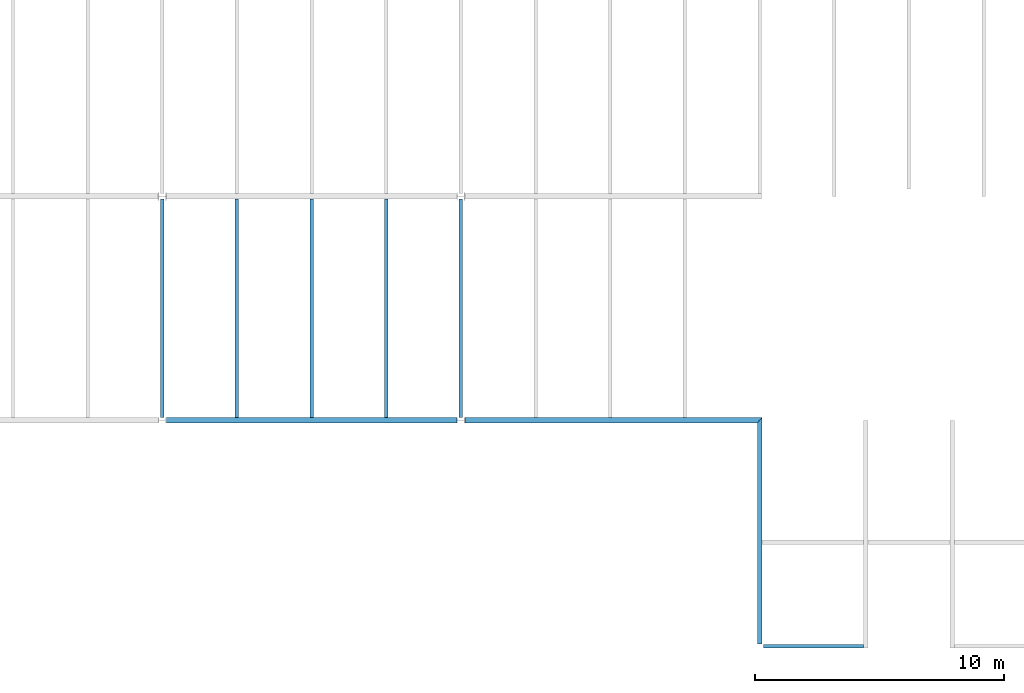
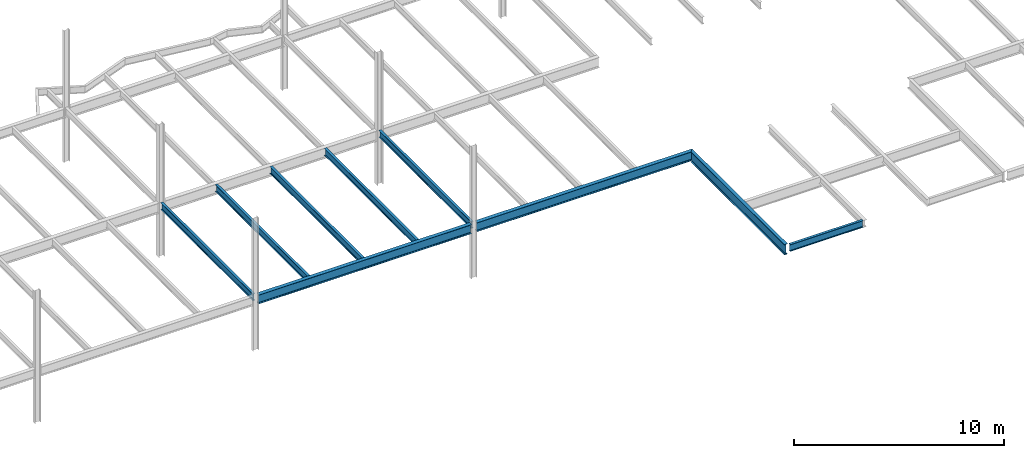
# One storey, part 8 of 23: 9 beams.
"""IFC2X3 building model written with IfcOpenShell, lengths in millimetres."""

from ifc_helpers import new_model, si_unit, origin, place, context, project, spatial, faceted_brep, material, element, save


model = new_model("IFC2X3")

# Units and contexts
context_of_model = context(None, 3, precision=1e-05, world=origin())
ifc_project = project(units=[si_unit("LENGTHUNIT", "METRE", prefix="MILLI")], contexts=[context_of_model])

# Building, storey
building = spatial("IfcBuilding", under=ifc_project, Name="Building", CompositionType="ELEMENT")
storey = spatial("IfcBuildingStorey", under=building, Name="FL5-FRM", CompositionType="ELEMENT")

# Beams
ifc_material_1 = material(Name="A992")
beam_1_placement = place(None, origin())
element("IfcBeam", 1, at=beam_1_placement, inside=storey, material=ifc_material_1, Name="Column415", context=context_of_model, shape_type="Brep", body=[
    faceted_brep([(-23847.0, 17895.5, 17345.0), (-23847.0, 18104.5, 17345.0), (-12153.0, 18104.5, 17345.0), (-12153.0, 17895.5, 17345.0), (-23847.0, 18104.5, 17358.3), (-12153.0, 18104.5, 17358.3), (-23847.0, 18017.4, 17358.3), (-12153.0, 18017.4, 17358.3), (-23847.0, 18014.2, 17358.7), (-12153.0, 18014.2, 17358.7), (-23847.0, 18011.1, 17360.0), (-12153.0, 18011.1, 17360.0), (-23847.0, 18008.5, 17362.0), (-12153.0, 18008.5, 17362.0), (-23847.0, 18006.5, 17364.7), (-12153.0, 18006.5, 17364.7), (-23847.0, 18005.2, 17367.7), (-12153.0, 18005.2, 17367.7), (-23847.0, 18004.8, 17371.0), (-12153.0, 18004.8, 17371.0), (-23847.0, 18004.8, 17847.0), (-12153.0, 18004.8, 17847.0), (-23847.0, 18005.2, 17850.3), (-12153.0, 18005.2, 17850.3), (-23847.0, 18006.5, 17853.3), (-12153.0, 18006.5, 17853.3), (-23847.0, 18008.5, 17856.0), (-12153.0, 18008.5, 17856.0), (-23847.0, 18011.1, 17858.0), (-12153.0, 18011.1, 17858.0), (-23847.0, 18014.2, 17859.3), (-12153.0, 18014.2, 17859.3), (-23847.0, 18017.4, 17859.7), (-12153.0, 18017.4, 17859.7), (-23847.0, 18104.5, 17859.7), (-12153.0, 18104.5, 17859.7), (-23847.0, 18104.5, 17873.0), (-12153.0, 18104.5, 17873.0), (-23847.0, 17895.5, 17873.0), (-12153.0, 17895.5, 17873.0), (-23847.0, 17895.5, 17859.7), (-12153.0, 17895.5, 17859.7), (-23847.0, 17982.6, 17859.7), (-12153.0, 17982.6, 17859.7), (-23847.0, 17985.8, 17859.3), (-12153.0, 17985.8, 17859.3), (-23847.0, 17988.9, 17858.0), (-12153.0, 17988.9, 17858.0), (-23847.0, 17991.5, 17856.0), (-12153.0, 17991.5, 17856.0), (-23847.0, 17993.5, 17853.3), (-12153.0, 17993.5, 17853.3), (-23847.0, 17994.8, 17850.3), (-12153.0, 17994.8, 17850.3), (-23847.0, 17995.3, 17847.0), (-12153.0, 17995.3, 17847.0), (-23847.0, 17995.3, 17371.0), (-12153.0, 17995.3, 17371.0), (-23847.0, 17994.8, 17367.7), (-12153.0, 17994.8, 17367.7), (-23847.0, 17993.5, 17364.7), (-12153.0, 17993.5, 17364.7), (-23847.0, 17991.5, 17362.0), (-12153.0, 17991.5, 17362.0), (-23847.0, 17988.9, 17360.0), (-12153.0, 17988.9, 17360.0), (-23847.0, 17985.8, 17358.7), (-12153.0, 17985.8, 17358.7), (-23847.0, 17982.6, 17358.3), (-12153.0, 17982.6, 17358.3), (-23847.0, 17895.5, 17358.3), (-12153.0, 17895.5, 17358.3)], [[[0, 1, 2, 3]], [[1, 4, 5, 2]], [[4, 6, 7, 5]], [[6, 8, 9, 7]], [[8, 10, 11, 9]], [[10, 12, 13, 11]], [[12, 14, 15, 13]], [[14, 16, 17, 15]], [[16, 18, 19, 17]], [[18, 20, 21, 19]], [[20, 22, 23, 21]], [[22, 24, 25, 23]], [[24, 26, 27, 25]], [[26, 28, 29, 27]], [[28, 30, 31, 29]], [[30, 32, 33, 31]], [[32, 34, 35, 33]], [[34, 36, 37, 35]], [[36, 38, 39, 37]], [[38, 40, 41, 39]], [[40, 42, 43, 41]], [[42, 44, 45, 43]], [[44, 46, 47, 45]], [[46, 48, 49, 47]], [[48, 50, 51, 49]], [[50, 52, 53, 51]], [[52, 54, 55, 53]], [[54, 56, 57, 55]], [[56, 58, 59, 57]], [[58, 60, 61, 59]], [[60, 62, 63, 61]], [[62, 64, 65, 63]], [[64, 66, 67, 65]], [[66, 68, 69, 67]], [[68, 70, 71, 69]], [[70, 0, 3, 71]], [[0, 70, 68, 66, 64, 62, 60, 58, 56, 54, 52, 50, 48, 46, 44, 42, 40, 38, 36, 34, 32, 30, 28, 26, 24, 22, 20, 18, 16, 14, 12, 10, 8, 6, 4, 1]], [[3, 2, 5, 7, 9, 11, 13, 15, 17, 19, 21, 23, 25, 27, 29, 31, 33, 35, 37, 39, 41, 43, 45, 47, 49, 51, 53, 55, 57, 59, 61, 63, 65, 67, 69, 71]]]),
])
ifc_material_2 = material(Name="A992")
beam_2_placement = place(None, origin())
element("IfcBeam", 2, at=beam_2_placement, inside=storey, material=ifc_material_2, Name="B283", context=context_of_model, shape_type="Brep", body=[
    faceted_brep([(-11930.0, 18104.5, 17474.0), (-12070.0, 18104.5, 17474.0), (-12070.0, 26885.5, 17474.0), (-11930.0, 26885.5, 17474.0), (-12070.0, 18104.5, 17482.8), (-12070.0, 26885.5, 17482.8), (-12013.4, 18104.5, 17482.8), (-12013.4, 26885.5, 17482.8), (-12010.8, 18104.5, 17483.1), (-12010.8, 26885.5, 17483.1), (-12008.3, 18104.5, 17484.2), (-12008.3, 26885.5, 17484.2), (-12006.2, 18104.5, 17485.8), (-12006.2, 26885.5, 17485.8), (-12004.6, 18104.5, 17487.9), (-12004.6, 26885.5, 17487.9), (-12003.5, 18104.5, 17490.4), (-12003.5, 26885.5, 17490.4), (-12003.2, 18104.5, 17493.0), (-12003.2, 26885.5, 17493.0), (-12003.2, 18104.5, 17854.0), (-12003.2, 26885.5, 17854.0), (-12003.5, 18104.5, 17856.6), (-12003.5, 26885.5, 17856.6), (-12004.6, 18104.5, 17859.1), (-12004.6, 26885.5, 17859.1), (-12006.2, 18104.5, 17861.2), (-12006.2, 26885.5, 17861.2), (-12008.3, 18104.5, 17862.8), (-12008.3, 26885.5, 17862.8), (-12010.8, 18104.5, 17863.9), (-12010.8, 26885.5, 17863.9), (-12013.4, 18104.5, 17864.2), (-12013.4, 26885.5, 17864.2), (-12070.0, 18104.5, 17864.2), (-12070.0, 26885.5, 17864.2), (-12070.0, 18104.5, 17873.0), (-12070.0, 26885.5, 17873.0), (-11930.0, 18104.5, 17873.0), (-11930.0, 26885.5, 17873.0), (-11930.0, 18104.5, 17864.2), (-11930.0, 26885.5, 17864.2), (-11986.6, 18104.5, 17864.2), (-11986.6, 26885.5, 17864.2), (-11989.2, 18104.5, 17863.9), (-11989.2, 26885.5, 17863.9), (-11991.7, 18104.5, 17862.8), (-11991.7, 26885.5, 17862.8), (-11993.8, 18104.5, 17861.2), (-11993.8, 26885.5, 17861.2), (-11995.4, 18104.5, 17859.1), (-11995.4, 26885.5, 17859.1), (-11996.5, 18104.5, 17856.6), (-11996.5, 26885.5, 17856.6), (-11996.8, 18104.5, 17854.0), (-11996.8, 26885.5, 17854.0), (-11996.8, 18104.5, 17493.0), (-11996.8, 26885.5, 17493.0), (-11996.5, 18104.5, 17490.4), (-11996.5, 26885.5, 17490.4), (-11995.4, 18104.5, 17487.9), (-11995.4, 26885.5, 17487.9), (-11993.8, 18104.5, 17485.8), (-11993.8, 26885.5, 17485.8), (-11991.7, 18104.5, 17484.2), (-11991.7, 26885.5, 17484.2), (-11989.2, 18104.5, 17483.1), (-11989.2, 26885.5, 17483.1), (-11986.6, 18104.5, 17482.8), (-11986.6, 26885.5, 17482.8), (-11930.0, 18104.5, 17482.8), (-11930.0, 26885.5, 17482.8)], [[[0, 1, 2, 3]], [[1, 4, 5, 2]], [[4, 6, 7, 5]], [[6, 8, 9, 7]], [[8, 10, 11, 9]], [[10, 12, 13, 11]], [[12, 14, 15, 13]], [[14, 16, 17, 15]], [[16, 18, 19, 17]], [[18, 20, 21, 19]], [[20, 22, 23, 21]], [[22, 24, 25, 23]], [[24, 26, 27, 25]], [[26, 28, 29, 27]], [[28, 30, 31, 29]], [[30, 32, 33, 31]], [[32, 34, 35, 33]], [[34, 36, 37, 35]], [[36, 38, 39, 37]], [[38, 40, 41, 39]], [[40, 42, 43, 41]], [[42, 44, 45, 43]], [[44, 46, 47, 45]], [[46, 48, 49, 47]], [[48, 50, 51, 49]], [[50, 52, 53, 51]], [[52, 54, 55, 53]], [[54, 56, 57, 55]], [[56, 58, 59, 57]], [[58, 60, 61, 59]], [[60, 62, 63, 61]], [[62, 64, 65, 63]], [[64, 66, 67, 65]], [[66, 68, 69, 67]], [[68, 70, 71, 69]], [[70, 0, 3, 71]], [[0, 70, 68, 66, 64, 62, 60, 58, 56, 54, 52, 50, 48, 46, 44, 42, 40, 38, 36, 34, 32, 30, 28, 26, 24, 22, 20, 18, 16, 14, 12, 10, 8, 6, 4, 1]], [[3, 2, 5, 7, 9, 11, 13, 15, 17, 19, 21, 23, 25, 27, 29, 31, 33, 35, 37, 39, 41, 43, 45, 47, 49, 51, 53, 55, 57, 59, 61, 63, 65, 67, 69, 71]]]),
])
ifc_material_3 = material(Name="A992")
beam_3_placement = place(None, origin())
element("IfcBeam", 3, at=beam_3_placement, inside=storey, material=ifc_material_3, Name="B284", context=context_of_model, shape_type="Brep", body=[
    faceted_brep([(-14930.0, 18104.5, 17474.0), (-15070.0, 18104.5, 17474.0), (-15070.0, 26885.5, 17474.0), (-14930.0, 26885.5, 17474.0), (-15070.0, 18104.5, 17482.8), (-15070.0, 26885.5, 17482.8), (-15013.4, 18104.5, 17482.8), (-15013.4, 26885.5, 17482.8), (-15010.8, 18104.5, 17483.1), (-15010.8, 26885.5, 17483.1), (-15008.3, 18104.5, 17484.2), (-15008.3, 26885.5, 17484.2), (-15006.2, 18104.5, 17485.8), (-15006.2, 26885.5, 17485.8), (-15004.6, 18104.5, 17487.9), (-15004.6, 26885.5, 17487.9), (-15003.5, 18104.5, 17490.4), (-15003.5, 26885.5, 17490.4), (-15003.2, 18104.5, 17493.0), (-15003.2, 26885.5, 17493.0), (-15003.2, 18104.5, 17854.0), (-15003.2, 26885.5, 17854.0), (-15003.5, 18104.5, 17856.6), (-15003.5, 26885.5, 17856.6), (-15004.6, 18104.5, 17859.1), (-15004.6, 26885.5, 17859.1), (-15006.2, 18104.5, 17861.2), (-15006.2, 26885.5, 17861.2), (-15008.3, 18104.5, 17862.8), (-15008.3, 26885.5, 17862.8), (-15010.8, 18104.5, 17863.9), (-15010.8, 26885.5, 17863.9), (-15013.4, 18104.5, 17864.2), (-15013.4, 26885.5, 17864.2), (-15070.0, 18104.5, 17864.2), (-15070.0, 26885.5, 17864.2), (-15070.0, 18104.5, 17873.0), (-15070.0, 26885.5, 17873.0), (-14930.0, 18104.5, 17873.0), (-14930.0, 26885.5, 17873.0), (-14930.0, 18104.5, 17864.2), (-14930.0, 26885.5, 17864.2), (-14986.6, 18104.5, 17864.2), (-14986.6, 26885.5, 17864.2), (-14989.2, 18104.5, 17863.9), (-14989.2, 26885.5, 17863.9), (-14991.7, 18104.5, 17862.8), (-14991.7, 26885.5, 17862.8), (-14993.8, 18104.5, 17861.2), (-14993.8, 26885.5, 17861.2), (-14995.4, 18104.5, 17859.1), (-14995.4, 26885.5, 17859.1), (-14996.5, 18104.5, 17856.6), (-14996.5, 26885.5, 17856.6), (-14996.8, 18104.5, 17854.0), (-14996.8, 26885.5, 17854.0), (-14996.8, 18104.5, 17493.0), (-14996.8, 26885.5, 17493.0), (-14996.5, 18104.5, 17490.4), (-14996.5, 26885.5, 17490.4), (-14995.4, 18104.5, 17487.9), (-14995.4, 26885.5, 17487.9), (-14993.8, 18104.5, 17485.8), (-14993.8, 26885.5, 17485.8), (-14991.7, 18104.5, 17484.2), (-14991.7, 26885.5, 17484.2), (-14989.2, 18104.5, 17483.1), (-14989.2, 26885.5, 17483.1), (-14986.6, 18104.5, 17482.8), (-14986.6, 26885.5, 17482.8), (-14930.0, 18104.5, 17482.8), (-14930.0, 26885.5, 17482.8)], [[[0, 1, 2, 3]], [[1, 4, 5, 2]], [[4, 6, 7, 5]], [[6, 8, 9, 7]], [[8, 10, 11, 9]], [[10, 12, 13, 11]], [[12, 14, 15, 13]], [[14, 16, 17, 15]], [[16, 18, 19, 17]], [[18, 20, 21, 19]], [[20, 22, 23, 21]], [[22, 24, 25, 23]], [[24, 26, 27, 25]], [[26, 28, 29, 27]], [[28, 30, 31, 29]], [[30, 32, 33, 31]], [[32, 34, 35, 33]], [[34, 36, 37, 35]], [[36, 38, 39, 37]], [[38, 40, 41, 39]], [[40, 42, 43, 41]], [[42, 44, 45, 43]], [[44, 46, 47, 45]], [[46, 48, 49, 47]], [[48, 50, 51, 49]], [[50, 52, 53, 51]], [[52, 54, 55, 53]], [[54, 56, 57, 55]], [[56, 58, 59, 57]], [[58, 60, 61, 59]], [[60, 62, 63, 61]], [[62, 64, 65, 63]], [[64, 66, 67, 65]], [[66, 68, 69, 67]], [[68, 70, 71, 69]], [[70, 0, 3, 71]], [[0, 70, 68, 66, 64, 62, 60, 58, 56, 54, 52, 50, 48, 46, 44, 42, 40, 38, 36, 34, 32, 30, 28, 26, 24, 22, 20, 18, 16, 14, 12, 10, 8, 6, 4, 1]], [[3, 2, 5, 7, 9, 11, 13, 15, 17, 19, 21, 23, 25, 27, 29, 31, 33, 35, 37, 39, 41, 43, 45, 47, 49, 51, 53, 55, 57, 59, 61, 63, 65, 67, 69, 71]]]),
])
ifc_material_4 = material(Name="A992")
beam_4_placement = place(None, origin())
element("IfcBeam", 4, at=beam_4_placement, inside=storey, material=ifc_material_4, Name="B285", context=context_of_model, shape_type="Brep", body=[
    faceted_brep([(-17930.0, 18104.5, 17474.0), (-18070.0, 18104.5, 17474.0), (-18070.0, 26885.5, 17474.0), (-17930.0, 26885.5, 17474.0), (-18070.0, 18104.5, 17482.8), (-18070.0, 26885.5, 17482.8), (-18013.4, 18104.5, 17482.8), (-18013.4, 26885.5, 17482.8), (-18010.8, 18104.5, 17483.1), (-18010.8, 26885.5, 17483.1), (-18008.3, 18104.5, 17484.2), (-18008.3, 26885.5, 17484.2), (-18006.2, 18104.5, 17485.8), (-18006.2, 26885.5, 17485.8), (-18004.6, 18104.5, 17487.9), (-18004.6, 26885.5, 17487.9), (-18003.5, 18104.5, 17490.4), (-18003.5, 26885.5, 17490.4), (-18003.2, 18104.5, 17493.0), (-18003.2, 26885.5, 17493.0), (-18003.2, 18104.5, 17854.0), (-18003.2, 26885.5, 17854.0), (-18003.5, 18104.5, 17856.6), (-18003.5, 26885.5, 17856.6), (-18004.6, 18104.5, 17859.1), (-18004.6, 26885.5, 17859.1), (-18006.2, 18104.5, 17861.2), (-18006.2, 26885.5, 17861.2), (-18008.3, 18104.5, 17862.8), (-18008.3, 26885.5, 17862.8), (-18010.8, 18104.5, 17863.9), (-18010.8, 26885.5, 17863.9), (-18013.4, 18104.5, 17864.2), (-18013.4, 26885.5, 17864.2), (-18070.0, 18104.5, 17864.2), (-18070.0, 26885.5, 17864.2), (-18070.0, 18104.5, 17873.0), (-18070.0, 26885.5, 17873.0), (-17930.0, 18104.5, 17873.0), (-17930.0, 26885.5, 17873.0), (-17930.0, 18104.5, 17864.2), (-17930.0, 26885.5, 17864.2), (-17986.6, 18104.5, 17864.2), (-17986.6, 26885.5, 17864.2), (-17989.2, 18104.5, 17863.9), (-17989.2, 26885.5, 17863.9), (-17991.7, 18104.5, 17862.8), (-17991.7, 26885.5, 17862.8), (-17993.8, 18104.5, 17861.2), (-17993.8, 26885.5, 17861.2), (-17995.4, 18104.5, 17859.1), (-17995.4, 26885.5, 17859.1), (-17996.5, 18104.5, 17856.6), (-17996.5, 26885.5, 17856.6), (-17996.8, 18104.5, 17854.0), (-17996.8, 26885.5, 17854.0), (-17996.8, 18104.5, 17493.0), (-17996.8, 26885.5, 17493.0), (-17996.5, 18104.5, 17490.4), (-17996.5, 26885.5, 17490.4), (-17995.4, 18104.5, 17487.9), (-17995.4, 26885.5, 17487.9), (-17993.8, 18104.5, 17485.8), (-17993.8, 26885.5, 17485.8), (-17991.7, 18104.5, 17484.2), (-17991.7, 26885.5, 17484.2), (-17989.2, 18104.5, 17483.1), (-17989.2, 26885.5, 17483.1), (-17986.6, 18104.5, 17482.8), (-17986.6, 26885.5, 17482.8), (-17930.0, 18104.5, 17482.8), (-17930.0, 26885.5, 17482.8)], [[[0, 1, 2, 3]], [[1, 4, 5, 2]], [[4, 6, 7, 5]], [[6, 8, 9, 7]], [[8, 10, 11, 9]], [[10, 12, 13, 11]], [[12, 14, 15, 13]], [[14, 16, 17, 15]], [[16, 18, 19, 17]], [[18, 20, 21, 19]], [[20, 22, 23, 21]], [[22, 24, 25, 23]], [[24, 26, 27, 25]], [[26, 28, 29, 27]], [[28, 30, 31, 29]], [[30, 32, 33, 31]], [[32, 34, 35, 33]], [[34, 36, 37, 35]], [[36, 38, 39, 37]], [[38, 40, 41, 39]], [[40, 42, 43, 41]], [[42, 44, 45, 43]], [[44, 46, 47, 45]], [[46, 48, 49, 47]], [[48, 50, 51, 49]], [[50, 52, 53, 51]], [[52, 54, 55, 53]], [[54, 56, 57, 55]], [[56, 58, 59, 57]], [[58, 60, 61, 59]], [[60, 62, 63, 61]], [[62, 64, 65, 63]], [[64, 66, 67, 65]], [[66, 68, 69, 67]], [[68, 70, 71, 69]], [[70, 0, 3, 71]], [[0, 70, 68, 66, 64, 62, 60, 58, 56, 54, 52, 50, 48, 46, 44, 42, 40, 38, 36, 34, 32, 30, 28, 26, 24, 22, 20, 18, 16, 14, 12, 10, 8, 6, 4, 1]], [[3, 2, 5, 7, 9, 11, 13, 15, 17, 19, 21, 23, 25, 27, 29, 31, 33, 35, 37, 39, 41, 43, 45, 47, 49, 51, 53, 55, 57, 59, 61, 63, 65, 67, 69, 71]]]),
])
ifc_material_5 = material(Name="A992")
beam_5_placement = place(None, origin())
element("IfcBeam", 5, at=beam_5_placement, inside=storey, material=ifc_material_5, Name="B286", context=context_of_model, shape_type="Brep", body=[
    faceted_brep([(-20930.0, 18104.5, 17474.0), (-21070.0, 18104.5, 17474.0), (-21070.0, 26885.5, 17474.0), (-20930.0, 26885.5, 17474.0), (-21070.0, 18104.5, 17482.8), (-21070.0, 26885.5, 17482.8), (-21013.4, 18104.5, 17482.8), (-21013.4, 26885.5, 17482.8), (-21010.8, 18104.5, 17483.1), (-21010.8, 26885.5, 17483.1), (-21008.3, 18104.5, 17484.2), (-21008.3, 26885.5, 17484.2), (-21006.2, 18104.5, 17485.8), (-21006.2, 26885.5, 17485.8), (-21004.6, 18104.5, 17487.9), (-21004.6, 26885.5, 17487.9), (-21003.5, 18104.5, 17490.4), (-21003.5, 26885.5, 17490.4), (-21003.2, 18104.5, 17493.0), (-21003.2, 26885.5, 17493.0), (-21003.2, 18104.5, 17854.0), (-21003.2, 26885.5, 17854.0), (-21003.5, 18104.5, 17856.6), (-21003.5, 26885.5, 17856.6), (-21004.6, 18104.5, 17859.1), (-21004.6, 26885.5, 17859.1), (-21006.2, 18104.5, 17861.2), (-21006.2, 26885.5, 17861.2), (-21008.3, 18104.5, 17862.8), (-21008.3, 26885.5, 17862.8), (-21010.8, 18104.5, 17863.9), (-21010.8, 26885.5, 17863.9), (-21013.4, 18104.5, 17864.2), (-21013.4, 26885.5, 17864.2), (-21070.0, 18104.5, 17864.2), (-21070.0, 26885.5, 17864.2), (-21070.0, 18104.5, 17873.0), (-21070.0, 26885.5, 17873.0), (-20930.0, 18104.5, 17873.0), (-20930.0, 26885.5, 17873.0), (-20930.0, 18104.5, 17864.2), (-20930.0, 26885.5, 17864.2), (-20986.6, 18104.5, 17864.2), (-20986.6, 26885.5, 17864.2), (-20989.2, 18104.5, 17863.9), (-20989.2, 26885.5, 17863.9), (-20991.7, 18104.5, 17862.8), (-20991.7, 26885.5, 17862.8), (-20993.8, 18104.5, 17861.2), (-20993.8, 26885.5, 17861.2), (-20995.4, 18104.5, 17859.1), (-20995.4, 26885.5, 17859.1), (-20996.5, 18104.5, 17856.6), (-20996.5, 26885.5, 17856.6), (-20996.8, 18104.5, 17854.0), (-20996.8, 26885.5, 17854.0), (-20996.8, 18104.5, 17493.0), (-20996.8, 26885.5, 17493.0), (-20996.5, 18104.5, 17490.4), (-20996.5, 26885.5, 17490.4), (-20995.4, 18104.5, 17487.9), (-20995.4, 26885.5, 17487.9), (-20993.8, 18104.5, 17485.8), (-20993.8, 26885.5, 17485.8), (-20991.7, 18104.5, 17484.2), (-20991.7, 26885.5, 17484.2), (-20989.2, 18104.5, 17483.1), (-20989.2, 26885.5, 17483.1), (-20986.6, 18104.5, 17482.8), (-20986.6, 26885.5, 17482.8), (-20930.0, 18104.5, 17482.8), (-20930.0, 26885.5, 17482.8)], [[[0, 1, 2, 3]], [[1, 4, 5, 2]], [[4, 6, 7, 5]], [[6, 8, 9, 7]], [[8, 10, 11, 9]], [[10, 12, 13, 11]], [[12, 14, 15, 13]], [[14, 16, 17, 15]], [[16, 18, 19, 17]], [[18, 20, 21, 19]], [[20, 22, 23, 21]], [[22, 24, 25, 23]], [[24, 26, 27, 25]], [[26, 28, 29, 27]], [[28, 30, 31, 29]], [[30, 32, 33, 31]], [[32, 34, 35, 33]], [[34, 36, 37, 35]], [[36, 38, 39, 37]], [[38, 40, 41, 39]], [[40, 42, 43, 41]], [[42, 44, 45, 43]], [[44, 46, 47, 45]], [[46, 48, 49, 47]], [[48, 50, 51, 49]], [[50, 52, 53, 51]], [[52, 54, 55, 53]], [[54, 56, 57, 55]], [[56, 58, 59, 57]], [[58, 60, 61, 59]], [[60, 62, 63, 61]], [[62, 64, 65, 63]], [[64, 66, 67, 65]], [[66, 68, 69, 67]], [[68, 70, 71, 69]], [[70, 0, 3, 71]], [[0, 70, 68, 66, 64, 62, 60, 58, 56, 54, 52, 50, 48, 46, 44, 42, 40, 38, 36, 34, 32, 30, 28, 26, 24, 22, 20, 18, 16, 14, 12, 10, 8, 6, 4, 1]], [[3, 2, 5, 7, 9, 11, 13, 15, 17, 19, 21, 23, 25, 27, 29, 31, 33, 35, 37, 39, 41, 43, 45, 47, 49, 51, 53, 55, 57, 59, 61, 63, 65, 67, 69, 71]]]),
])
ifc_material_6 = material(Name="A992")
beam_6_placement = place(None, origin())
element("IfcBeam", 6, at=beam_6_placement, inside=storey, material=ifc_material_6, Name="B287", context=context_of_model, shape_type="Brep", body=[
    faceted_brep([(-23930.0, 18104.5, 17474.0), (-24070.0, 18104.5, 17474.0), (-24070.0, 26885.5, 17474.0), (-23930.0, 26885.5, 17474.0), (-24070.0, 18104.5, 17482.8), (-24070.0, 26885.5, 17482.8), (-24013.4, 18104.5, 17482.8), (-24013.4, 26885.5, 17482.8), (-24010.8, 18104.5, 17483.1), (-24010.8, 26885.5, 17483.1), (-24008.3, 18104.5, 17484.2), (-24008.3, 26885.5, 17484.2), (-24006.2, 18104.5, 17485.8), (-24006.2, 26885.5, 17485.8), (-24004.6, 18104.5, 17487.9), (-24004.6, 26885.5, 17487.9), (-24003.5, 18104.5, 17490.4), (-24003.5, 26885.5, 17490.4), (-24003.2, 18104.5, 17493.0), (-24003.2, 26885.5, 17493.0), (-24003.2, 18104.5, 17854.0), (-24003.2, 26885.5, 17854.0), (-24003.5, 18104.5, 17856.6), (-24003.5, 26885.5, 17856.6), (-24004.6, 18104.5, 17859.1), (-24004.6, 26885.5, 17859.1), (-24006.2, 18104.5, 17861.2), (-24006.2, 26885.5, 17861.2), (-24008.3, 18104.5, 17862.8), (-24008.3, 26885.5, 17862.8), (-24010.8, 18104.5, 17863.9), (-24010.8, 26885.5, 17863.9), (-24013.4, 18104.5, 17864.2), (-24013.4, 26885.5, 17864.2), (-24070.0, 18104.5, 17864.2), (-24070.0, 26885.5, 17864.2), (-24070.0, 18104.5, 17873.0), (-24070.0, 26885.5, 17873.0), (-23930.0, 18104.5, 17873.0), (-23930.0, 26885.5, 17873.0), (-23930.0, 18104.5, 17864.2), (-23930.0, 26885.5, 17864.2), (-23986.6, 18104.5, 17864.2), (-23986.6, 26885.5, 17864.2), (-23989.2, 18104.5, 17863.9), (-23989.2, 26885.5, 17863.9), (-23991.7, 18104.5, 17862.8), (-23991.7, 26885.5, 17862.8), (-23993.8, 18104.5, 17861.2), (-23993.8, 26885.5, 17861.2), (-23995.4, 18104.5, 17859.1), (-23995.4, 26885.5, 17859.1), (-23996.5, 18104.5, 17856.6), (-23996.5, 26885.5, 17856.6), (-23996.8, 18104.5, 17854.0), (-23996.8, 26885.5, 17854.0), (-23996.8, 18104.5, 17493.0), (-23996.8, 26885.5, 17493.0), (-23996.5, 18104.5, 17490.4), (-23996.5, 26885.5, 17490.4), (-23995.4, 18104.5, 17487.9), (-23995.4, 26885.5, 17487.9), (-23993.8, 18104.5, 17485.8), (-23993.8, 26885.5, 17485.8), (-23991.7, 18104.5, 17484.2), (-23991.7, 26885.5, 17484.2), (-23989.2, 18104.5, 17483.1), (-23989.2, 26885.5, 17483.1), (-23986.6, 18104.5, 17482.8), (-23986.6, 26885.5, 17482.8), (-23930.0, 18104.5, 17482.8), (-23930.0, 26885.5, 17482.8)], [[[0, 1, 2, 3]], [[1, 4, 5, 2]], [[4, 6, 7, 5]], [[6, 8, 9, 7]], [[8, 10, 11, 9]], [[10, 12, 13, 11]], [[12, 14, 15, 13]], [[14, 16, 17, 15]], [[16, 18, 19, 17]], [[18, 20, 21, 19]], [[20, 22, 23, 21]], [[22, 24, 25, 23]], [[24, 26, 27, 25]], [[26, 28, 29, 27]], [[28, 30, 31, 29]], [[30, 32, 33, 31]], [[32, 34, 35, 33]], [[34, 36, 37, 35]], [[36, 38, 39, 37]], [[38, 40, 41, 39]], [[40, 42, 43, 41]], [[42, 44, 45, 43]], [[44, 46, 47, 45]], [[46, 48, 49, 47]], [[48, 50, 51, 49]], [[50, 52, 53, 51]], [[52, 54, 55, 53]], [[54, 56, 57, 55]], [[56, 58, 59, 57]], [[58, 60, 61, 59]], [[60, 62, 63, 61]], [[62, 64, 65, 63]], [[64, 66, 67, 65]], [[66, 68, 69, 67]], [[68, 70, 71, 69]], [[70, 0, 3, 71]], [[0, 70, 68, 66, 64, 62, 60, 58, 56, 54, 52, 50, 48, 46, 44, 42, 40, 38, 36, 34, 32, 30, 28, 26, 24, 22, 20, 18, 16, 14, 12, 10, 8, 6, 4, 1]], [[3, 2, 5, 7, 9, 11, 13, 15, 17, 19, 21, 23, 25, 27, 29, 31, 33, 35, 37, 39, 41, 43, 45, 47, 49, 51, 53, 55, 57, 59, 61, 63, 65, 67, 69, 71]]]),
])
ifc_material_7 = material(Name="A992")
beam_7_placement = place(None, origin())
element("IfcBeam", 7, at=beam_7_placement, inside=storey, material=ifc_material_7, Name="B608", context=context_of_model, shape_type="Brep", body=[
    faceted_brep([(-89.5, 17895.5, 17270.0), (89.5, 18104.5, 17270.0), (89.5, 9004.95, 17270.0), (-89.5, 9004.95, 17270.0), (89.5, 18104.5, 17285.0), (89.5, 9004.95, 17285.0), (20.65, 18024.1, 17285.0), (20.65, 9004.95, 17285.0), (18.5119, 18021.6, 17285.1), (18.487, 9004.95, 17285.2), (16.3939, 18019.1, 17285.6), (16.3678, 9004.95, 17285.6), (14.3612, 18016.8, 17286.4), (14.3357, 9004.95, 17286.4), (12.5005, 18014.6, 17287.4), (12.4328, 9004.95, 17287.4), (10.7318, 18012.5, 17288.7), (10.6963, 9004.95, 17288.7), (9.21391, 18010.8, 17290.2), (9.16288, 9004.95, 17290.2), (7.91695, 18009.2, 17291.9), (7.86372, 9004.95, 17292.0), (6.83082, 18008.0, 17293.8), (6.82368, 9004.95, 17293.9), (6.11939, 18007.1, 17295.9), (6.06628, 9004.95, 17295.9), (5.66647, 18006.6, 17298.0), (5.6055, 9004.95, 17298.0), (5.45, 18006.4, 17300.2), (5.45, 9004.95, 17300.2), (5.45, 18006.4, 17842.8), (5.45, 9004.95, 17842.8), (5.66647, 18006.6, 17845.0), (5.6055, 9004.95, 17845.0), (6.11939, 18007.1, 17847.1), (6.06628, 9004.95, 17847.1), (6.83082, 18008.0, 17849.2), (6.82368, 9004.95, 17849.1), (7.91695, 18009.2, 17851.1), (7.86372, 9004.95, 17851.0), (9.21391, 18010.8, 17852.8), (9.16288, 9004.95, 17852.8), (10.7318, 18012.5, 17854.3), (10.6963, 9004.95, 17854.3), (12.5005, 18014.6, 17855.6), (12.4328, 9004.95, 17855.6), (14.3612, 18016.8, 17856.6), (14.3357, 9004.95, 17856.6), (16.3939, 18019.1, 17857.4), (16.3678, 9004.95, 17857.4), (18.5119, 18021.6, 17857.9), (18.487, 9004.95, 17857.8), (20.65, 18024.1, 17858.0), (20.65, 9004.95, 17858.0), (89.5, 18104.5, 17858.0), (89.5, 9004.95, 17858.0), (89.5, 18104.5, 17873.0), (89.5, 9004.95, 17873.0), (-89.5, 17895.5, 17873.0), (-89.5, 9004.95, 17873.0), (-89.5, 17895.5, 17858.0), (-89.5, 9004.95, 17858.0), (-20.65, 17975.9, 17858.0), (-20.65, 9004.95, 17858.0), (-18.5119, 17978.4, 17857.9), (-18.487, 9004.95, 17857.8), (-16.3939, 17980.9, 17857.4), (-16.3678, 9004.95, 17857.4), (-14.3612, 17983.2, 17856.6), (-14.3357, 9004.95, 17856.6), (-12.5005, 17985.4, 17855.6), (-12.4328, 9004.95, 17855.6), (-10.7318, 17987.5, 17854.3), (-10.6963, 9004.95, 17854.3), (-9.21391, 17989.2, 17852.8), (-9.16288, 9004.95, 17852.8), (-7.91695, 17990.8, 17851.1), (-7.86372, 9004.95, 17851.0), (-6.83082, 17992.0, 17849.2), (-6.82368, 9004.95, 17849.1), (-6.11939, 17992.9, 17847.1), (-6.06628, 9004.95, 17847.1), (-5.66647, 17993.4, 17845.0), (-5.6055, 9004.95, 17845.0), (-5.45, 17993.6, 17842.8), (-5.45, 9004.95, 17842.8), (-5.45, 17993.6, 17300.2), (-5.45, 9004.95, 17300.2), (-5.66647, 17993.4, 17298.0), (-5.6055, 9004.95, 17298.0), (-6.11939, 17992.9, 17295.9), (-6.06628, 9004.95, 17295.9), (-6.83082, 17992.0, 17293.8), (-6.82368, 9004.95, 17293.9), (-7.91695, 17990.8, 17291.9), (-7.86372, 9004.95, 17292.0), (-9.21391, 17989.2, 17290.2), (-9.16288, 9004.95, 17290.2), (-10.7318, 17987.5, 17288.7), (-10.6963, 9004.95, 17288.7), (-12.5005, 17985.4, 17287.4), (-12.4328, 9004.95, 17287.4), (-14.3612, 17983.2, 17286.4), (-14.3357, 9004.95, 17286.4), (-16.3939, 17980.9, 17285.6), (-16.3678, 9004.95, 17285.6), (-18.5119, 17978.4, 17285.1), (-18.487, 9004.95, 17285.2), (-20.65, 17975.9, 17285.0), (-20.65, 9004.95, 17285.0), (-89.5, 17895.5, 17285.0), (-89.5, 9004.95, 17285.0)], [[[0, 1, 2, 3]], [[1, 4, 5, 2]], [[4, 6, 7, 5]], [[6, 8, 9, 7]], [[8, 10, 11, 9]], [[10, 12, 13, 11]], [[12, 14, 15, 13]], [[14, 16, 17, 15]], [[16, 18, 19, 17]], [[18, 20, 21, 19]], [[20, 22, 23, 21]], [[22, 24, 25, 23]], [[24, 26, 27, 25]], [[26, 28, 29, 27]], [[28, 30, 31, 29]], [[30, 32, 33, 31]], [[32, 34, 35, 33]], [[34, 36, 37, 35]], [[36, 38, 39, 37]], [[38, 40, 41, 39]], [[40, 42, 43, 41]], [[42, 44, 45, 43]], [[44, 46, 47, 45]], [[46, 48, 49, 47]], [[48, 50, 51, 49]], [[50, 52, 53, 51]], [[52, 54, 55, 53]], [[54, 56, 57, 55]], [[56, 58, 59, 57]], [[58, 60, 61, 59]], [[60, 62, 63, 61]], [[62, 64, 65, 63]], [[64, 66, 67, 65]], [[66, 68, 69, 67]], [[68, 70, 71, 69]], [[70, 72, 73, 71]], [[72, 74, 75, 73]], [[74, 76, 77, 75]], [[76, 78, 79, 77]], [[78, 80, 81, 79]], [[80, 82, 83, 81]], [[82, 84, 85, 83]], [[84, 86, 87, 85]], [[86, 88, 89, 87]], [[88, 90, 91, 89]], [[90, 92, 93, 91]], [[92, 94, 95, 93]], [[94, 96, 97, 95]], [[96, 98, 99, 97]], [[98, 100, 101, 99]], [[100, 102, 103, 101]], [[102, 104, 105, 103]], [[104, 106, 107, 105]], [[106, 108, 109, 107]], [[108, 110, 111, 109]], [[110, 0, 3, 111]], [[0, 110, 108, 106, 104, 102, 100, 98, 96, 94, 92, 90, 88, 86, 84, 82, 80, 78, 76, 74, 72, 70, 68, 66, 64, 62, 60, 58, 56, 54, 52, 50, 48, 46, 44, 42, 40, 38, 36, 34, 32, 30, 28, 26, 24, 22, 20, 18, 16, 14, 12, 10, 8, 6, 4, 1]], [[3, 2, 5, 7, 9, 11, 13, 15, 17, 19, 21, 23, 25, 27, 29, 31, 33, 35, 37, 39, 41, 43, 45, 47, 49, 51, 53, 55, 57, 59, 61, 63, 65, 67, 69, 71, 73, 75, 77, 79, 81, 83, 85, 87, 89, 91, 93, 95, 97, 99, 101, 103, 105, 107, 109, 111]]]),
])
ifc_material_8 = material(Name="A992")
beam_8_placement = place(None, origin())
element("IfcBeam", 8, at=beam_8_placement, inside=storey, material=ifc_material_8, Name="Column570", context=context_of_model, shape_type="Brep", body=[
    faceted_brep([(-11847.0, 17895.5, 17345.0), (-11847.0, 18104.5, 17345.0), (89.5, 18104.5, 17345.0), (-89.5, 17895.5, 17345.0), (-11847.0, 18104.5, 17358.3), (89.5, 18104.5, 17358.3), (-11847.0, 18017.4, 17358.3), (14.9452, 18017.4, 17358.3), (-11847.0, 18015.6, 17358.4), (13.41, 18015.7, 17358.4), (-11847.0, 18013.9, 17358.8), (11.894, 18013.9, 17358.8), (-11847.0, 18012.2, 17359.4), (10.4398, 18012.2, 17359.4), (-11847.0, 18010.6, 17360.3), (9.09833, 18010.6, 17360.3), (-11847.0, 18009.1, 17361.4), (7.83895, 18009.2, 17361.4), (-11847.0, 18007.9, 17362.7), (6.74994, 18007.9, 17362.7), (-11847.0, 18006.8, 17364.1), (5.82077, 18006.8, 17364.1), (-11847.0, 18005.9, 17365.7), (5.05428, 18005.9, 17365.7), (-11847.0, 18005.3, 17367.4), (4.53222, 18005.3, 17367.4), (-11847.0, 18004.9, 17369.2), (4.20582, 18004.9, 17369.2), (-11847.0, 18004.7, 17371.0), (4.06818, 18004.8, 17371.0), (-11847.0, 18004.8, 17847.0), (4.06818, 18004.8, 17847.0), (-11847.0, 18004.9, 17848.8), (4.20582, 18004.9, 17848.8), (-11847.0, 18005.3, 17850.6), (4.53222, 18005.3, 17850.6), (-11847.0, 18005.9, 17852.3), (5.05428, 18005.9, 17852.3), (-11847.0, 18006.8, 17853.9), (5.82077, 18006.8, 17853.9), (-11847.0, 18007.9, 17855.3), (6.74994, 18007.9, 17855.3), (-11847.0, 18009.1, 17856.6), (7.83895, 18009.2, 17856.6), (-11847.0, 18010.6, 17857.7), (9.09833, 18010.6, 17857.7), (-11847.0, 18012.2, 17858.6), (10.4398, 18012.2, 17858.6), (-11847.0, 18013.9, 17859.2), (11.894, 18013.9, 17859.2), (-11847.0, 18015.6, 17859.6), (13.41, 18015.7, 17859.6), (-11847.0, 18017.4, 17859.7), (14.9452, 18017.4, 17859.7), (-11847.0, 18104.5, 17859.7), (89.5, 18104.5, 17859.7), (-11847.0, 18104.5, 17873.0), (89.5, 18104.5, 17873.0), (-11847.0, 17895.5, 17873.0), (-89.5, 17895.5, 17873.0), (-11847.0, 17895.5, 17859.7), (-89.5, 17895.5, 17859.7), (-11847.0, 17982.6, 17859.7), (-14.9452, 17982.6, 17859.7), (-11847.0, 17984.4, 17859.6), (-13.41, 17984.3, 17859.6), (-11847.0, 17986.1, 17859.2), (-11.894, 17986.1, 17859.2), (-11847.0, 17987.8, 17858.6), (-10.4398, 17987.8, 17858.6), (-11847.0, 17989.4, 17857.7), (-9.09833, 17989.4, 17857.7), (-11847.0, 17990.9, 17856.6), (-7.83895, 17990.8, 17856.6), (-11847.0, 17992.1, 17855.3), (-6.74994, 17992.1, 17855.3), (-11847.0, 17993.2, 17853.9), (-5.82077, 17993.2, 17853.9), (-11847.0, 17994.1, 17852.3), (-5.05428, 17994.1, 17852.3), (-11847.0, 17994.7, 17850.6), (-4.53222, 17994.7, 17850.6), (-11847.0, 17995.1, 17848.8), (-4.20582, 17995.1, 17848.8), (-11847.0, 17995.2, 17847.0), (-4.06818, 17995.2, 17847.0), (-11847.0, 17995.3, 17371.0), (-4.06818, 17995.3, 17371.0), (-11847.0, 17995.1, 17369.2), (-4.20582, 17995.1, 17369.2), (-11847.0, 17994.7, 17367.4), (-4.53222, 17994.7, 17367.4), (-11847.0, 17994.1, 17365.7), (-5.05428, 17994.1, 17365.7), (-11847.0, 17993.2, 17364.1), (-5.82077, 17993.2, 17364.1), (-11847.0, 17992.1, 17362.7), (-6.74994, 17992.1, 17362.7), (-11847.0, 17990.9, 17361.4), (-7.83895, 17990.8, 17361.4), (-11847.0, 17989.4, 17360.3), (-9.09833, 17989.4, 17360.3), (-11847.0, 17987.8, 17359.4), (-10.4398, 17987.8, 17359.4), (-11847.0, 17986.1, 17358.8), (-11.894, 17986.1, 17358.8), (-11847.0, 17984.4, 17358.4), (-13.41, 17984.3, 17358.4), (-11847.0, 17982.6, 17358.3), (-14.9452, 17982.6, 17358.3), (-11847.0, 17895.5, 17358.3), (-89.5, 17895.5, 17358.3)], [[[0, 1, 2, 3]], [[1, 4, 5, 2]], [[4, 6, 7, 5]], [[6, 8, 9, 7]], [[8, 10, 11, 9]], [[10, 12, 13, 11]], [[12, 14, 15, 13]], [[14, 16, 17, 15]], [[16, 18, 19, 17]], [[18, 20, 21, 19]], [[20, 22, 23, 21]], [[22, 24, 25, 23]], [[24, 26, 27, 25]], [[26, 28, 29, 27]], [[28, 30, 31, 29]], [[30, 32, 33, 31]], [[32, 34, 35, 33]], [[34, 36, 37, 35]], [[36, 38, 39, 37]], [[38, 40, 41, 39]], [[40, 42, 43, 41]], [[42, 44, 45, 43]], [[44, 46, 47, 45]], [[46, 48, 49, 47]], [[48, 50, 51, 49]], [[50, 52, 53, 51]], [[52, 54, 55, 53]], [[54, 56, 57, 55]], [[56, 58, 59, 57]], [[58, 60, 61, 59]], [[60, 62, 63, 61]], [[62, 64, 65, 63]], [[64, 66, 67, 65]], [[66, 68, 69, 67]], [[68, 70, 71, 69]], [[70, 72, 73, 71]], [[72, 74, 75, 73]], [[74, 76, 77, 75]], [[76, 78, 79, 77]], [[78, 80, 81, 79]], [[80, 82, 83, 81]], [[82, 84, 85, 83]], [[84, 86, 87, 85]], [[86, 88, 89, 87]], [[88, 90, 91, 89]], [[90, 92, 93, 91]], [[92, 94, 95, 93]], [[94, 96, 97, 95]], [[96, 98, 99, 97]], [[98, 100, 101, 99]], [[100, 102, 103, 101]], [[102, 104, 105, 103]], [[104, 106, 107, 105]], [[106, 108, 109, 107]], [[108, 110, 111, 109]], [[110, 0, 3, 111]], [[0, 110, 108, 106, 104, 102, 100, 98, 96, 94, 92, 90, 88, 86, 84, 82, 80, 78, 76, 74, 72, 70, 68, 66, 64, 62, 60, 58, 56, 54, 52, 50, 48, 46, 44, 42, 40, 38, 36, 34, 32, 30, 28, 26, 24, 22, 20, 18, 16, 14, 12, 10, 8, 6, 4, 1]], [[3, 2, 5, 7, 9, 11, 13, 15, 17, 19, 21, 23, 25, 27, 29, 31, 33, 35, 37, 39, 41, 43, 45, 47, 49, 51, 53, 55, 57, 59, 61, 63, 65, 67, 69, 71, 73, 75, 77, 79, 81, 83, 85, 87, 89, 91, 93, 95, 97, 99, 101, 103, 105, 107, 109, 111]]]),
])
ifc_material_9 = material(Name="A992")
beam_9_placement = place(None, origin())
element("IfcBeam", 9, at=beam_9_placement, inside=storey, material=ifc_material_9, Name="B1238", context=context_of_model, shape_type="Brep", body=[
    faceted_brep([(4173.2, 9000.0, 17474.0), (4173.2, 8860.0, 17474.0), (154.0, 8860.0, 17474.0), (154.0, 9000.0, 17474.0), (4173.2, 8860.0, 17482.8), (154.0, 8860.0, 17482.8), (4173.2, 8916.6, 17482.8), (154.0, 8916.6, 17482.8), (4173.2, 8919.24, 17483.1), (154.0, 8919.24, 17483.1), (4173.2, 8921.7, 17484.2), (154.0, 8921.7, 17484.2), (4173.2, 8923.81, 17485.8), (154.0, 8923.81, 17485.8), (4173.2, 8925.43, 17487.9), (154.0, 8925.43, 17487.9), (4173.2, 8926.45, 17490.4), (154.0, 8926.45, 17490.4), (4173.2, 8926.8, 17493.0), (154.0, 8926.8, 17493.0), (4173.2, 8926.8, 17854.0), (154.0, 8926.8, 17854.0), (4173.2, 8926.45, 17856.6), (154.0, 8926.45, 17856.6), (4173.2, 8925.43, 17859.1), (154.0, 8925.43, 17859.1), (4173.2, 8923.81, 17861.2), (154.0, 8923.81, 17861.2), (4173.2, 8921.7, 17862.8), (154.0, 8921.7, 17862.8), (4173.2, 8919.24, 17863.9), (154.0, 8919.24, 17863.9), (4173.2, 8916.6, 17864.2), (154.0, 8916.6, 17864.2), (4173.2, 8860.0, 17864.2), (154.0, 8860.0, 17864.2), (4173.2, 8860.0, 17873.0), (154.0, 8860.0, 17873.0), (4173.2, 9000.0, 17873.0), (154.0, 9000.0, 17873.0), (4173.2, 9000.0, 17864.2), (154.0, 9000.0, 17864.2), (4173.2, 8943.4, 17864.2), (154.0, 8943.4, 17864.2), (4173.2, 8940.76, 17863.9), (154.0, 8940.76, 17863.9), (4173.2, 8938.3, 17862.8), (154.0, 8938.3, 17862.8), (4173.2, 8936.19, 17861.2), (154.0, 8936.19, 17861.2), (4173.2, 8934.57, 17859.1), (154.0, 8934.57, 17859.1), (4173.2, 8933.55, 17856.6), (154.0, 8933.55, 17856.6), (4173.2, 8933.2, 17854.0), (154.0, 8933.2, 17854.0), (4173.2, 8933.2, 17493.0), (154.0, 8933.2, 17493.0), (4173.2, 8933.55, 17490.4), (154.0, 8933.55, 17490.4), (4173.2, 8934.57, 17487.9), (154.0, 8934.57, 17487.9), (4173.2, 8936.19, 17485.8), (154.0, 8936.19, 17485.8), (4173.2, 8938.3, 17484.2), (154.0, 8938.3, 17484.2), (4173.2, 8940.76, 17483.1), (154.0, 8940.76, 17483.1), (4173.2, 8943.4, 17482.8), (154.0, 8943.4, 17482.8), (4173.2, 9000.0, 17482.8), (154.0, 9000.0, 17482.8)], [[[0, 1, 2, 3]], [[1, 4, 5, 2]], [[4, 6, 7, 5]], [[6, 8, 9, 7]], [[8, 10, 11, 9]], [[10, 12, 13, 11]], [[12, 14, 15, 13]], [[14, 16, 17, 15]], [[16, 18, 19, 17]], [[18, 20, 21, 19]], [[20, 22, 23, 21]], [[22, 24, 25, 23]], [[24, 26, 27, 25]], [[26, 28, 29, 27]], [[28, 30, 31, 29]], [[30, 32, 33, 31]], [[32, 34, 35, 33]], [[34, 36, 37, 35]], [[36, 38, 39, 37]], [[38, 40, 41, 39]], [[40, 42, 43, 41]], [[42, 44, 45, 43]], [[44, 46, 47, 45]], [[46, 48, 49, 47]], [[48, 50, 51, 49]], [[50, 52, 53, 51]], [[52, 54, 55, 53]], [[54, 56, 57, 55]], [[56, 58, 59, 57]], [[58, 60, 61, 59]], [[60, 62, 63, 61]], [[62, 64, 65, 63]], [[64, 66, 67, 65]], [[66, 68, 69, 67]], [[68, 70, 71, 69]], [[70, 0, 3, 71]], [[0, 70, 68, 66, 64, 62, 60, 58, 56, 54, 52, 50, 48, 46, 44, 42, 40, 38, 36, 34, 32, 30, 28, 26, 24, 22, 20, 18, 16, 14, 12, 10, 8, 6, 4, 1]], [[3, 2, 5, 7, 9, 11, 13, 15, 17, 19, 21, 23, 25, 27, 29, 31, 33, 35, 37, 39, 41, 43, 45, 47, 49, 51, 53, 55, 57, 59, 61, 63, 65, 67, 69, 71]]]),
])

save(model, "model.ifc")
